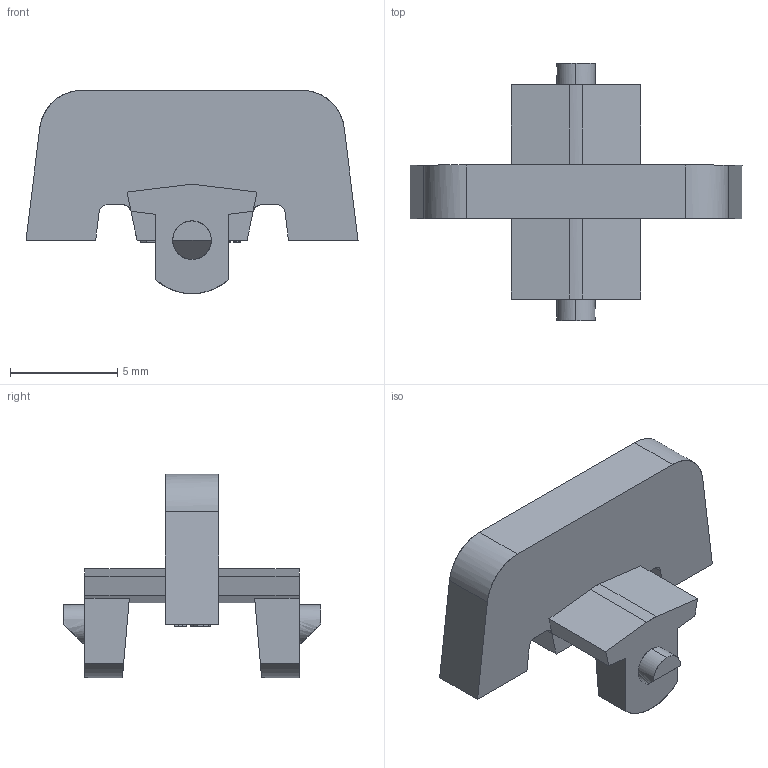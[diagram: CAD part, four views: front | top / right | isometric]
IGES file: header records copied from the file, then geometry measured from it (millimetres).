
Start section: Surface Model. Bezier boundary curves.
Global section: file name: 002YE05Z01.igs; native system: TRANS-3D by CORETECH International; preprocessor: 2.1; date: 020506.070009; units: millimetre
Bounding box: 15.5 x 12 x 9.5 mm (x, y, z)
Surface area: 492.6 mm2 (no closed solid volume)
Topology: 0 solids, 0 shells, 276 faces, 1626 edges, 1626 vertices
Faces by surface type: bspline 276
